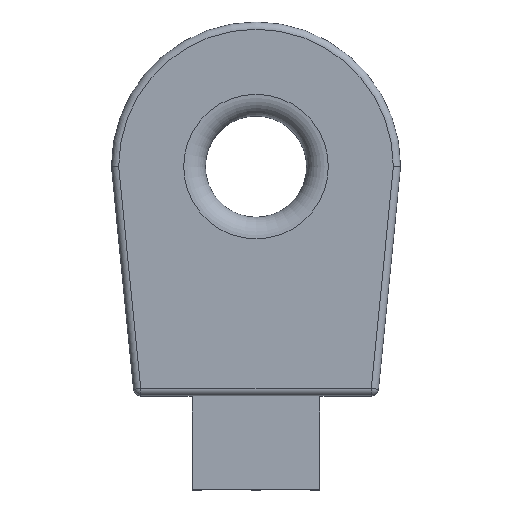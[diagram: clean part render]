
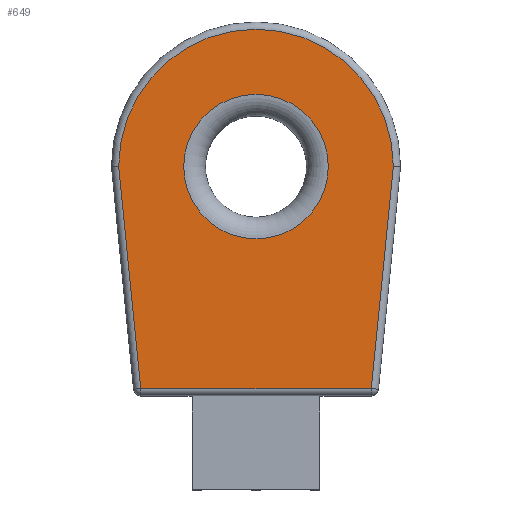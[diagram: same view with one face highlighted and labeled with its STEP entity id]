
A CAD part, top view. The second image highlights one B-rep face of the part: STEP entity #649.
In plain terms, the highlighted planar face has unit normal (0, 0, 1).
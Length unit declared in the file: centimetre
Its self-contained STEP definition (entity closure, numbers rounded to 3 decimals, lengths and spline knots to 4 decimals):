
#252=VERTEX_POINT('',#2250);
#255=VERTEX_POINT('',#2258);
#256=VERTEX_POINT('',#2259);
#257=VERTEX_POINT('',#2261);
#258=VERTEX_POINT('',#2263);
#319=EDGE_CURVE('',#252,#252,#767,.T.);
#322=EDGE_CURVE('',#255,#256,#876,.T.);
#323=EDGE_CURVE('',#257,#255,#877,.T.);
#324=EDGE_CURVE('',#258,#257,#878,.T.);
#325=EDGE_CURVE('',#256,#258,#770,.T.);
#436=ORIENTED_EDGE('',*,*,#322,.F.);
#437=ORIENTED_EDGE('',*,*,#323,.F.);
#438=ORIENTED_EDGE('',*,*,#324,.F.);
#439=ORIENTED_EDGE('',*,*,#325,.F.);
#440=ORIENTED_EDGE('',*,*,#319,.F.);
#564=EDGE_LOOP('',(#436,#437,#438,#439));
#565=EDGE_LOOP('',(#440));
#608=FACE_BOUND('',#564,.T.);
#609=FACE_BOUND('',#565,.T.);
#649=ADVANCED_FACE('',(#608,#609),#1683,.T.);
#767=CIRCLE('',#1497,1.);
#770=CIRCLE('',#1502,1.9);
#876=LINE('',#2257,#1643);
#877=LINE('',#2260,#1644);
#878=LINE('',#2262,#1645);
#1497=AXIS2_PLACEMENT_3D('',#2249,#1901,#1902);
#1501=AXIS2_PLACEMENT_3D('',#2256,#1909,$);
#1502=AXIS2_PLACEMENT_3D('',#2264,#1913,#1914);
#1643=VECTOR('',#1910,1.);
#1644=VECTOR('',#1911,1.);
#1645=VECTOR('',#1912,1.);
#1683=PLANE('',#1501);
#1901=DIRECTION('',(0.,0.,1.));
#1902=DIRECTION('',(-1.,0.,0.));
#1909=DIRECTION('',(0.,0.,1.));
#1910=DIRECTION('',(-0.099,0.995,0.));
#1911=DIRECTION('',(-1.,0.,0.));
#1912=DIRECTION('',(-0.099,-0.995,0.));
#1913=DIRECTION('',(0.,0.,-1.));
#1914=DIRECTION('',(0.,1.9,0.));
#2249=CARTESIAN_POINT('',(-0.4838,1.2106,2.2));
#2250=CARTESIAN_POINT('',(0.5162,1.2106,2.2));
#2256=CARTESIAN_POINT('',(-0.4838,0.3638,2.2));
#2257=CARTESIAN_POINT('',(-2.2541,-0.0897,2.2));
#2258=CARTESIAN_POINT('',(-2.0783,-1.8594,2.2));
#2259=CARTESIAN_POINT('',(-2.3838,1.2155,2.2));
#2260=CARTESIAN_POINT('',(0.1587,-1.8594,2.2));
#2261=CARTESIAN_POINT('',(1.1106,-1.8594,2.2));
#2262=CARTESIAN_POINT('',(1.2865,-0.0897,2.2));
#2263=CARTESIAN_POINT('',(1.4162,1.2155,2.2));
#2264=CARTESIAN_POINT('',(-0.4838,1.2106,2.2));
